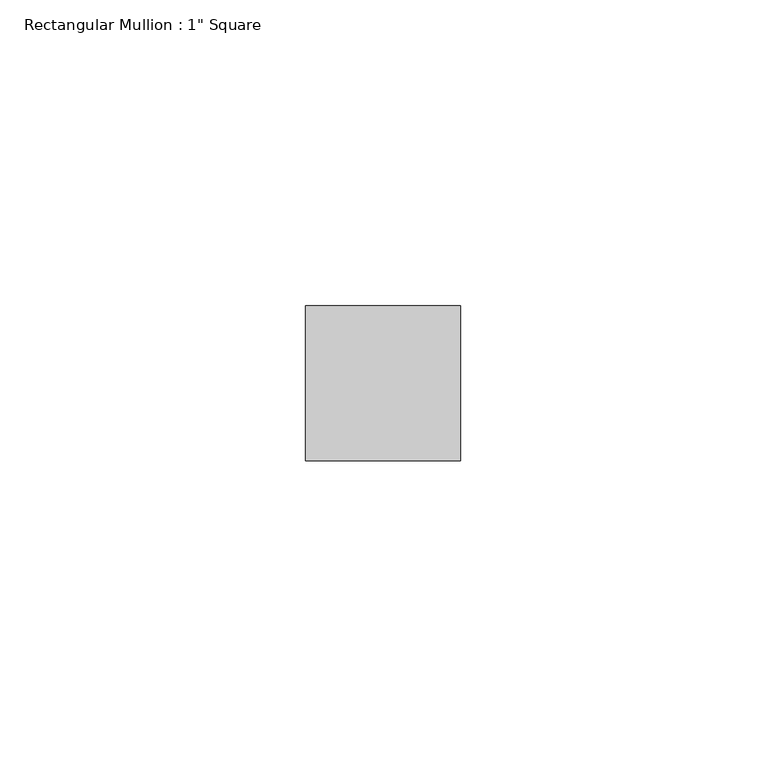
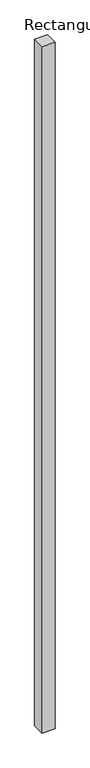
"""IFC4 building model written with IfcOpenShell, lengths in millimetres: member geometry."""

import ifcopenshell
import ifcopenshell.guid

model = None  # the IFC model being written
_history = None  # IfcOwnerHistory: only IFC2X3 demands one
_inside = {}  # id of a spatial element -> (the spatial element, [elements in it])
_under = {}  # id of a project, library or spatial element -> (it, [spatial elements below it])
_declared = {}  # id of a project -> (the project, [libraries it declares])
_typed = {}  # id of a type object -> (the type object, [elements of that type])
_made_of = {}  # id of a material, layer set ... -> (it, [elements and type objects made of it])


def new_model(schema):
    """Start an empty IFC model of exactly this schema.

    Asked for "IFC4X3", IfcOpenShell would pick the latest addendum, in which some entities
    have other attributes; the version numbers below select the first issue.
    IFC2X3 requires an IfcOwnerHistory on every rooted entity: one is made here for all.
    """
    global model, _history
    if schema == "IFC4X3":
        model = ifcopenshell.file(schema_version=(4, 3, 0, 0))
    else:
        model = ifcopenshell.file(schema=schema)
    _inside.clear()
    _under.clear()
    _declared.clear()
    _typed.clear()
    _made_of.clear()
    _history = None
    if model.schema == "IFC2X3":
        org = make("IfcOrganization", Name="unknown")
        user = make(
            "IfcPersonAndOrganization",
            ThePerson=make("IfcPerson", FamilyName="unknown"),
            TheOrganization=org,
        )
        app = make(
            "IfcApplication",
            ApplicationDeveloper=org,
            Version="unknown",
            ApplicationFullName="unknown",
            ApplicationIdentifier="unknown",
        )
        _history = make(
            "IfcOwnerHistory",
            OwningUser=user,
            OwningApplication=app,
            ChangeAction="ADDED",
            CreationDate=0,
        )
    return model


def make(cls, **values):
    """One entity of the class cls with the attributes given. An attribute that is None is left unset."""
    return model.create_entity(
        cls, **{name: value for name, value in values.items() if value is not None}
    )


def rooted(cls, **values):
    """An entity with a GlobalId (a new one), such as an element, a storey or a relation."""
    return make(cls, GlobalId=ifcopenshell.guid.new(), OwnerHistory=_history, **values)


def si_unit(unit_type, name, prefix=None):
    """IfcSIUnit, for example si_unit("LENGTHUNIT", "METRE", prefix="MILLI")."""
    return make("IfcSIUnit", UnitType=unit_type, Prefix=prefix, Name=name)


def assignment(units):
    """IfcUnitAssignment: the units of a project."""
    return None if units is None else make("IfcUnitAssignment", Units=units)


def point(xyz):
    """IfcCartesianPoint."""
    return None if xyz is None else make("IfcCartesianPoint", Coordinates=xyz)


def direction(xyz):
    """IfcDirection."""
    return None if xyz is None else make("IfcDirection", DirectionRatios=xyz)


def frame(location, z_axis=None, x_axis=None):
    """IfcAxis2Placement3D, a coordinate frame: its origin and axes. An axis left out is left unset."""
    return make(
        "IfcAxis2Placement3D",
        Location=point(location),
        Axis=direction(z_axis),
        RefDirection=direction(x_axis),
    )


def origin():
    """The frame at (0, 0, 0) with its axes left unset."""
    return frame((0.0, 0.0, 0.0))


def place(relative_to, where):
    """IfcLocalPlacement: puts the frame where relative to a parent placement (None: the world)."""
    return make(
        "IfcLocalPlacement", PlacementRelTo=relative_to, RelativePlacement=where
    )


def context(
    kind, dimensions, precision=None, world=None, true_north=None, identifier=None
):
    """IfcGeometricRepresentationContext, for example the 3D "Model" context."""
    return make(
        "IfcGeometricRepresentationContext",
        ContextIdentifier=identifier,
        ContextType=kind,
        CoordinateSpaceDimension=dimensions,
        Precision=precision,
        WorldCoordinateSystem=world,
        TrueNorth=true_north,
    )


def project(units=None, contexts=None):
    """IfcProject with its units and contexts."""
    return rooted(
        "IfcProject",
        Name="project",
        RepresentationContexts=contexts,
        UnitsInContext=assignment(units),
    )


def spatial(cls, under=None, at=None, **own):
    """A site, building, storey or space (cls), placed at a placement, below another one or the project."""
    s = rooted(cls, ObjectPlacement=at, **own)
    if under is not None:
        _under.setdefault(under.id(), (under, []))[1].append(s)
    return s


def polyline(points):
    """IfcPolyline through the points."""
    return make("IfcPolyline", Points=[point(p) for p in points])


def outline(outer, holes=None, kind="AREA"):
    """IfcArbitraryClosedProfileDef: a profile drawn as a closed curve; with holes, ...WithVoids."""
    if holes is None:
        return make("IfcArbitraryClosedProfileDef", ProfileType=kind, OuterCurve=outer)
    return make(
        "IfcArbitraryProfileDefWithVoids",
        ProfileType=kind,
        OuterCurve=outer,
        InnerCurves=holes,
    )


def extrude(swept, where, along, depth):
    """IfcExtrudedAreaSolid: the profile swept, set in the frame where, extruded along a direction by depth."""
    return make(
        "IfcExtrudedAreaSolid",
        SweptArea=swept,
        Position=where,
        ExtrudedDirection=direction(along),
        Depth=depth,
    )


def shape(context_of_items, identifier, shape_type, items):
    """IfcShapeRepresentation: the items that make up one representation, for example the "Body"."""
    return make(
        "IfcShapeRepresentation",
        ContextOfItems=context_of_items,
        RepresentationIdentifier=identifier,
        RepresentationType=shape_type,
        Items=items,
    )


def source(mapping_origin, context_of_items, identifier, shape_type, items):
    """IfcRepresentationMap: a shape defined once, which mapped items show again and again."""
    return make(
        "IfcRepresentationMap",
        MappingOrigin=mapping_origin,
        MappedRepresentation=shape(context_of_items, identifier, shape_type, items),
    )


def transform(
    local_origin,
    x_axis=None,
    y_axis=None,
    z_axis=None,
    scale=None,
    scale2=None,
    scale3=None,
    uniform=True,
):
    """IfcCartesianTransformationOperator3D, or its non-uniform kind. x_axis, y_axis, z_axis: its Axis1, 2, 3."""
    if uniform:
        return make(
            "IfcCartesianTransformationOperator3D",
            Axis1=direction(x_axis),
            Axis2=direction(y_axis),
            LocalOrigin=point(local_origin),
            Scale=scale,
            Axis3=direction(z_axis),
        )
    return make(
        "IfcCartesianTransformationOperator3DnonUniform",
        Axis1=direction(x_axis),
        Axis2=direction(y_axis),
        LocalOrigin=point(local_origin),
        Scale=scale,
        Axis3=direction(z_axis),
        Scale2=scale2,
        Scale3=scale3,
    )


def mapped(mapping_source, mapping_target):
    """IfcMappedItem: shows the shape of a source again, moved by a transform."""
    return make(
        "IfcMappedItem", MappingSource=mapping_source, MappingTarget=mapping_target
    )


def made_of(thing, what):
    """Note that an element or type object is made of a material, layer set ...; save() writes the relation."""
    if what is not None:
        _made_of.setdefault(what.id(), (what, []))[1].append(thing)
    return thing


def element(
    cls,
    number,
    at=None,
    inside=None,
    cuts=None,
    type_object=None,
    material=None,
    context=None,
    identifier="Body",
    shape_type=None,
    held_by="IfcProductDefinitionShape",
    body=None,
    shapes=None,
    **own,
):
    """One element of the class cls, such as IfcWall. Its Tag is "e" and its number.

    at: its placement. inside: the storey or other place that contains it. cuts: it is an
    opening in that element (IfcRelVoidsElement). A single representation is given by context,
    identifier, shape_type and body (its items); several are given by shapes. held_by: the class
    of the entity that holds the representations. save() writes the other relations.
    """
    e = rooted(cls, Tag="e%d" % number, ObjectPlacement=at, **own)
    if body is not None:
        shapes = [shape(context, identifier, shape_type, body)]
    if shapes is not None:
        e.Representation = make(held_by, Representations=shapes)
    if inside is not None:
        _inside.setdefault(inside.id(), (inside, []))[1].append(e)
    if cuts is not None:
        rooted(
            "IfcRelVoidsElement", RelatingBuildingElement=cuts, RelatedOpeningElement=e
        )
    if type_object is not None:
        _typed.setdefault(type_object.id(), (type_object, []))[1].append(e)
    return made_of(e, material)


def aggregate(whole, parts):
    """IfcRelAggregates: a whole, such as a stair, and the parts it consists of."""
    return rooted("IfcRelAggregates", RelatingObject=whole, RelatedObjects=parts)


def save(model, path):
    """Write the relations noted so far, then the file.

    IfcRelAggregates (storeys below a building ...), IfcRelContainedInSpatialStructure (elements
    in a storey), IfcRelDefinesByType, IfcRelAssociatesMaterial and IfcRelDeclares: one each for
    every whole, place, type object, material and project.
    """
    for whole, parts in _under.values():
        aggregate(whole, parts)
    for where, things in _inside.values():
        rooted(
            "IfcRelContainedInSpatialStructure",
            RelatedElements=things,
            RelatingStructure=where,
        )
    for kind, things in _typed.values():
        rooted("IfcRelDefinesByType", RelatedObjects=things, RelatingType=kind)
    for what, things in _made_of.values():
        rooted("IfcRelAssociatesMaterial", RelatedObjects=things, RelatingMaterial=what)
    for by, libraries in _declared.values():
        rooted("IfcRelDeclares", RelatingContext=by, RelatedDefinitions=libraries)
    model.write(path)


def member_42775d8c(model_context):
    return source(origin(), model_context, "Body", "SweptSolid", [
        extrude(outline(polyline([(12.7, 12.7), (12.7, -12.7), (-12.7, -12.7), (-12.7, 12.7), (12.7, 12.7)])), frame((0.0, 0.0, -1415.3328812), z_axis=(0.0, 0.0, 1.0), x_axis=(1.0, 0.0, 0.0)), (0.0, 0.0, 1.0), 1415.3328812),
    ])


if __name__ == "__main__":
    model = new_model("IFC4")
    model_context = context("Model", 3, world=origin())
    ifc_project = project(units=[si_unit("LENGTHUNIT", "METRE", prefix="MILLI")], contexts=[model_context])
    site = spatial("IfcSite", under=ifc_project)
    building = spatial("IfcBuilding", under=site)
    placement = place(None, origin())
    member_shape = member_42775d8c(model_context)
    element("IfcMember", 1, ObjectType="Rectangular Mullion : 1\" Square", at=placement, inside=building, context=model_context, shape_type="MappedRepresentation", body=[
        mapped(member_shape, transform((0.0, 0.0, 0.0), x_axis=(1.0, 0.0, 0.0), y_axis=(0.0, 1.0, 0.0), z_axis=(0.0, 0.0, 1.0))),
    ])
    save(model, "model.ifc")
